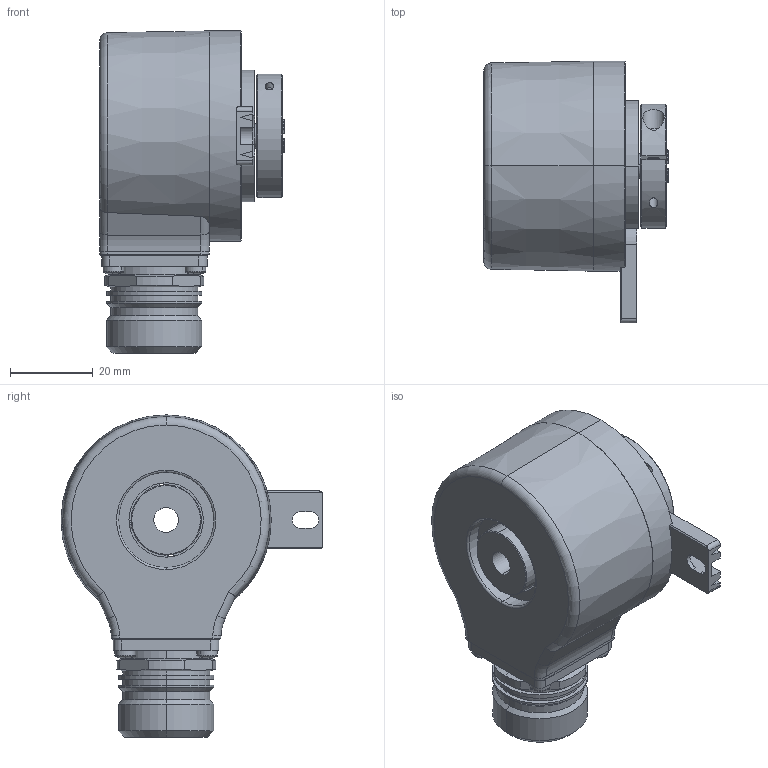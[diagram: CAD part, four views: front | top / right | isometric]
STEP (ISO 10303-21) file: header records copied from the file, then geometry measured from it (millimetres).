
FILE_DESCRIPTION (( 'STEP AP214' ), '1' );
FILE_NAME ('5020.1144.XXXX.STEP', '2007-08-01T08:59:48', ( 'DanneckerS' ), ( ' ' ), 'SwSTEP 2.0', 'SolidWorks 2007', '' );
FILE_SCHEMA (( 'AUTOMOTIVE_DESIGN' ));
Length unit declared in the file: millimetre
Products named in the file (1): 5020.1144.XXXX
Bounding box: 44.7 x 63.3 x 77.9 mm (x, y, z)
Surface area: 20123.5 mm2 (no closed solid volume)
Topology: 0 solids, 35 shells, 384 faces, 1111 edges, 740 vertices
Faces by surface type: cylinder 152, plane 133, torus 34, sphere 32, cone 29, bspline 4
Entity records: 17170 total; most frequent: CARTESIAN_POINT 2681, DIRECTION 2352, ORIENTED_EDGE 1897, EDGE_CURVE 1087, AXIS2_PLACEMENT_3D 953, VERTEX_POINT 740, CIRCLE 572, VECTOR 446
